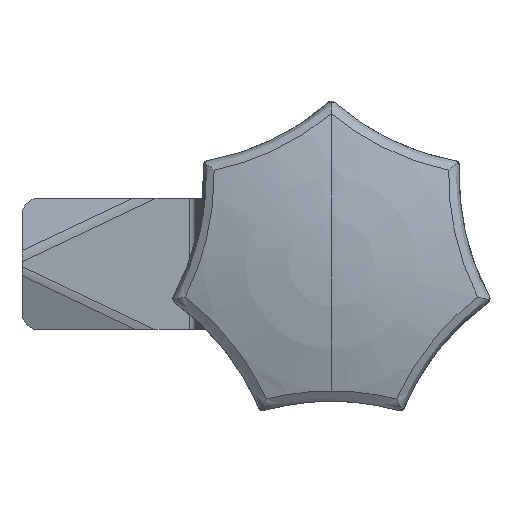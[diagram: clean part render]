
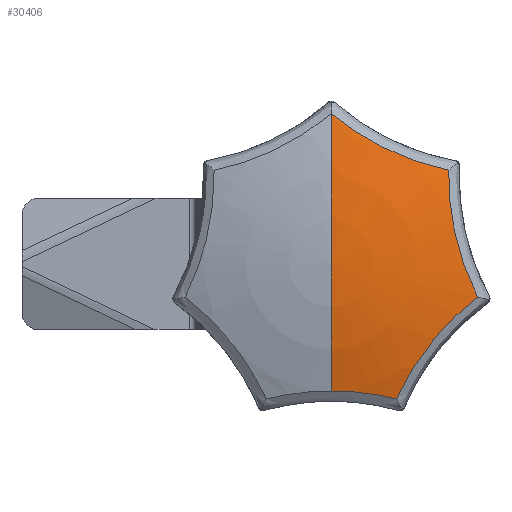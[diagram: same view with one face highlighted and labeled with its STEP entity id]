
A CAD part, front view. The second image highlights one B-rep face of the part: STEP entity #30406.
In plain terms, the highlighted toroidal (fillet/blend) face has major radius 0.009 mm and minor radius 73.507 mm.
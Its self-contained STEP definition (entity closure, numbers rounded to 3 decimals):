
#2470 = CARTESIAN_POINT ( 'NONE',  ( 13.969, -3.238, 14.348 ) ) ;
#2494 = VERTEX_POINT ( 'NONE', #45058 ) ;
#4841 = CARTESIAN_POINT ( 'NONE',  ( 20.561, -3., -3.445 ) ) ;
#5103 = EDGE_CURVE ( 'NONE', #2494, #7584, #48143, .T. ) ;
#5166 = CARTESIAN_POINT ( 'NONE',  ( 0., 67.509, 0.008 ) ) ;
#7272 = CARTESIAN_POINT ( 'NONE',  ( 17.059, -2.687, 13.604 ) ) ;
#7584 = VERTEX_POINT ( 'NONE', #44288 ) ;
#7773 = AXIS2_PLACEMENT_3D ( 'NONE', #49753, #43993, #21125 ) ;
#8807 = CARTESIAN_POINT ( 'NONE',  ( 17.677, -3.632, 5.709 ) ) ;
#10699 = CARTESIAN_POINT ( 'NONE',  ( 3.166, -3.315, 19.445 ) ) ;
#11653 = CARTESIAN_POINT ( 'NONE',  ( 6.36, -3.217, -19.012 ) ) ;
#11702 = VERTEX_POINT ( 'NONE', #17132 ) ;
#11922 = CARTESIAN_POINT ( 'NONE',  ( 6.558, -3.632, 17.38 ) ) ;
#12372 = CARTESIAN_POINT ( 'NONE',  ( 21.272, -2.687, -4.855 ) ) ;
#14874 = ORIENTED_EDGE ( 'NONE', *, *, #20203, .T. ) ;
#14951 = DIRECTION ( 'NONE',  ( 0., 0., -1. ) ) ;
#15147 = CARTESIAN_POINT ( 'NONE',  ( 15.479, -3.632, -10.267 ) ) ;
#15345 = CARTESIAN_POINT ( 'NONE',  ( 7.921, -2.982, -19.3 ) ) ;
#15442 = CARTESIAN_POINT ( 'NONE',  ( 18.833, -3.217, -6.878 ) ) ;
#16339 = CARTESIAN_POINT ( 'NONE',  ( 10.899, -3.218, -16.825 ) ) ;
#16496 = CARTESIAN_POINT ( 'NONE',  ( 5.167, -3.551, 18.16 ) ) ;
#16544 = CARTESIAN_POINT ( 'NONE',  ( 17.053, -2.981, 12.02 ) ) ;
#16754 = ORIENTED_EDGE ( 'NONE', *, *, #48965, .T. ) ;
#17132 = CARTESIAN_POINT ( 'NONE',  ( 9.467, -2.687, -19.658 ) ) ;
#17192 = ORIENTED_EDGE ( 'NONE', *, *, #27476, .T. ) ;
#17960 = CARTESIAN_POINT ( 'NONE',  ( 19.927, -3.238, -1.976 ) ) ;
#18906 = CARTESIAN_POINT ( 'NONE',  ( 20.029, -2.981, -5.839 ) ) ;
#19990 = CARTESIAN_POINT ( 'NONE',  ( 18.25, -3.315, -7.416 ) ) ;
#20141 = CARTESIAN_POINT ( 'NONE',  ( 9.47, -3.613, 16.003 ) ) ;
#20182 = CARTESIAN_POINT ( 'NONE',  ( 5.576, -3.316, -18.892 ) ) ;
#20203 = EDGE_CURVE ( 'NONE', #39799, #11702, #21699, .T. ) ;
#20444 = TOROIDAL_SURFACE ( 'NONE', #7773, 0.008, 73.506 ) ;
#21125 = DIRECTION ( 'NONE',  ( 0., 0., 1. ) ) ;
#21699 = B_SPLINE_CURVE_WITH_KNOTS ( 'NONE', 3,
 ( #53388, #34180, #38456, #20182, #11653, #15345, #29296, #47915 ),
 .UNSPECIFIED., .F., .F.,
 ( 4, 2, 2, 4 ),
 ( 0.011, 0.016, 0.018, 0.021 ),
 .UNSPECIFIED. ) ;
#22827 = CARTESIAN_POINT ( 'NONE',  ( 18.867, -3.534, 1.036 ) ) ;
#22839 = AXIS2_PLACEMENT_3D ( 'NONE', #5166, #34060, #33765 ) ;
#22863 = CARTESIAN_POINT ( 'NONE',  ( 20.644, -2.844, -5.337 ) ) ;
#23238 = CIRCLE ( 'NONE', #26114, 73.506 ) ;
#24561 = CARTESIAN_POINT ( 'NONE',  ( 9.467, -2.687, -19.658 ) ) ;
#24565 = B_SPLINE_CURVE_WITH_KNOTS ( 'NONE', 3,
 ( #24561, #25450, #39459, #16339, #53491, #43146, #48908, #25742, #56902, #15147, #33689, #19990, #15442, #18906, #22863, #32579 ),
 .UNSPECIFIED., .F., .F.,
 ( 4, 2, 2, 2, 2, 2, 2, 4 ),
 ( 0.002, 0.004, 0.006, 0.009, 0.011, 0.016, 0.019, 0.021 ),
 .UNSPECIFIED. ) ;
#24705 = CARTESIAN_POINT ( 'NONE',  ( 1.235, -2.981, 20.827 ) ) ;
#25402 = FACE_OUTER_BOUND ( 'NONE', #48441, .T. ) ;
#25450 = CARTESIAN_POINT ( 'NONE',  ( 9.797, -2.844, -18.939 ) ) ;
#25742 = CARTESIAN_POINT ( 'NONE',  ( 13.488, -3.613, -12.803 ) ) ;
#26114 = AXIS2_PLACEMENT_3D ( 'NONE', #55479, #46613, #14951 ) ;
#26452 = ORIENTED_EDGE ( 'NONE', *, *, #43385, .T. ) ;
#27476 = EDGE_CURVE ( 'NONE', #2494, #39799, #23238, .T. ) ;
#27966 = CARTESIAN_POINT ( 'NONE',  ( 17.42, -3.551, 7.283 ) ) ;
#29296 = CARTESIAN_POINT ( 'NONE',  ( 8.698, -2.844, -19.468 ) ) ;
#29549 = CARTESIAN_POINT ( 'NONE',  ( 2.513, -3.216, 19.893 ) ) ;
#29860 = VERTEX_POINT ( 'NONE', #12372 ) ;
#30406 = ADVANCED_FACE ( 'NONE', ( #25402 ), #20444, .T. ) ;
#32536 = CARTESIAN_POINT ( 'NONE',  ( 18.213, -3.633, 3.354 ) ) ;
#32579 = CARTESIAN_POINT ( 'NONE',  ( 21.272, -2.687, -4.855 ) ) ;
#32765 = ORIENTED_EDGE ( 'NONE', *, *, #38252, .T. ) ;
#33689 = CARTESIAN_POINT ( 'NONE',  ( 16.55, -3.552, -9.083 ) ) ;
#33765 = DIRECTION ( 'NONE',  ( 0., 0., 1. ) ) ;
#34060 = DIRECTION ( 'NONE',  ( -1., 0., 0. ) ) ;
#34180 = CARTESIAN_POINT ( 'NONE',  ( 1.614, -3.632, -18.503 ) ) ;
#34430 = CARTESIAN_POINT ( 'NONE',  ( 15.513, -3., 13.927 ) ) ;
#36508 = CARTESIAN_POINT ( 'NONE',  ( 18.416, -3.613, 2.574 ) ) ;
#36810 = CARTESIAN_POINT ( 'NONE',  ( 17.12, -3.216, 10.439 ) ) ;
#38252 = EDGE_CURVE ( 'NONE', #11702, #29860, #24565, .T. ) ;
#38456 = CARTESIAN_POINT ( 'NONE',  ( 3.209, -3.552, -18.602 ) ) ;
#39459 = CARTESIAN_POINT ( 'NONE',  ( 10.151, -2.982, -18.226 ) ) ;
#39799 = VERTEX_POINT ( 'NONE', #55638 ) ;
#42015 = CARTESIAN_POINT ( 'NONE',  ( 19.115, -3.475, 0.276 ) ) ;
#43001 = CARTESIAN_POINT ( 'NONE',  ( 10.953, -3.534, 15.397 ) ) ;
#43146 = CARTESIAN_POINT ( 'NONE',  ( 12.129, -3.474, -14.78 ) ) ;
#43385 = EDGE_CURVE ( 'NONE', #58038, #7584, #46511, .T. ) ;
#43993 = DIRECTION ( 'NONE',  ( 0., 1., 0. ) ) ;
#44288 = CARTESIAN_POINT ( 'NONE',  ( 0., -2.687, 21.819 ) ) ;
#44760 = B_SPLINE_CURVE_WITH_KNOTS ( 'NONE', 3,
 ( #49113, #4841, #17960, #42015, #22827, #36508, #32536, #8807, #27966, #55134, #36810, #16544, #51150, #46275 ),
 .UNSPECIFIED., .F., .F.,
 ( 4, 2, 2, 2, 2, 2, 4 ),
 ( 0.002, 0.006, 0.009, 0.011, 0.016, 0.019, 0.021 ),
 .UNSPECIFIED. ) ;
#45058 = CARTESIAN_POINT ( 'NONE',  ( 0., -5.997, 0. ) ) ;
#46275 = CARTESIAN_POINT ( 'NONE',  ( 17.059, -2.687, 13.604 ) ) ;
#46279 = ORIENTED_EDGE ( 'NONE', *, *, #5103, .F. ) ;
#46511 = B_SPLINE_CURVE_WITH_KNOTS ( 'NONE', 3,
 ( #57657, #34430, #2470, #58242, #43001, #20141, #52455, #11922, #16496, #10699, #29549, #24705, #48165, #47875 ),
 .UNSPECIFIED., .F., .F.,
 ( 4, 2, 2, 2, 2, 2, 4 ),
 ( 0.002, 0.006, 0.009, 0.011, 0.016, 0.019, 0.021 ),
 .UNSPECIFIED. ) ;
#46613 = DIRECTION ( 'NONE',  ( 1., 0., 0. ) ) ;
#47875 = CARTESIAN_POINT ( 'NONE',  ( 0., -2.687, 21.819 ) ) ;
#47915 = CARTESIAN_POINT ( 'NONE',  ( 9.467, -2.687, -19.658 ) ) ;
#48143 = CIRCLE ( 'NONE', #22839, 73.506 ) ;
#48165 = CARTESIAN_POINT ( 'NONE',  ( 0.609, -2.844, 21.315 ) ) ;
#48441 = EDGE_LOOP ( 'NONE', ( #46279, #17192, #14874, #32765, #16754, #26452 ) ) ;
#48908 = CARTESIAN_POINT ( 'NONE',  ( 12.567, -3.533, -14.114 ) ) ;
#48965 = EDGE_CURVE ( 'NONE', #29860, #58038, #44760, .T. ) ;
#49113 = CARTESIAN_POINT ( 'NONE',  ( 21.272, -2.687, -4.855 ) ) ;
#49753 = CARTESIAN_POINT ( 'NONE',  ( 0., 67.509, 0. ) ) ;
#51150 = CARTESIAN_POINT ( 'NONE',  ( 17.044, -2.844, 12.813 ) ) ;
#52455 = CARTESIAN_POINT ( 'NONE',  ( 8.733, -3.633, 16.331 ) ) ;
#53388 = CARTESIAN_POINT ( 'NONE',  ( 0., -3.632, -18.503 ) ) ;
#53491 = CARTESIAN_POINT ( 'NONE',  ( 11.295, -3.316, -16.136 ) ) ;
#55134 = CARTESIAN_POINT ( 'NONE',  ( 17.177, -3.315, 9.649 ) ) ;
#55479 = CARTESIAN_POINT ( 'NONE',  ( 0., 67.509, -0.008 ) ) ;
#55638 = CARTESIAN_POINT ( 'NONE',  ( 0., -3.632, -18.503 ) ) ;
#56902 = CARTESIAN_POINT ( 'NONE',  ( 13.971, -3.633, -12.157 ) ) ;
#57657 = CARTESIAN_POINT ( 'NONE',  ( 17.059, -2.687, 13.604 ) ) ;
#58038 = VERTEX_POINT ( 'NONE', #7272 ) ;
#58242 = CARTESIAN_POINT ( 'NONE',  ( 11.702, -3.475, 15.117 ) ) ;
